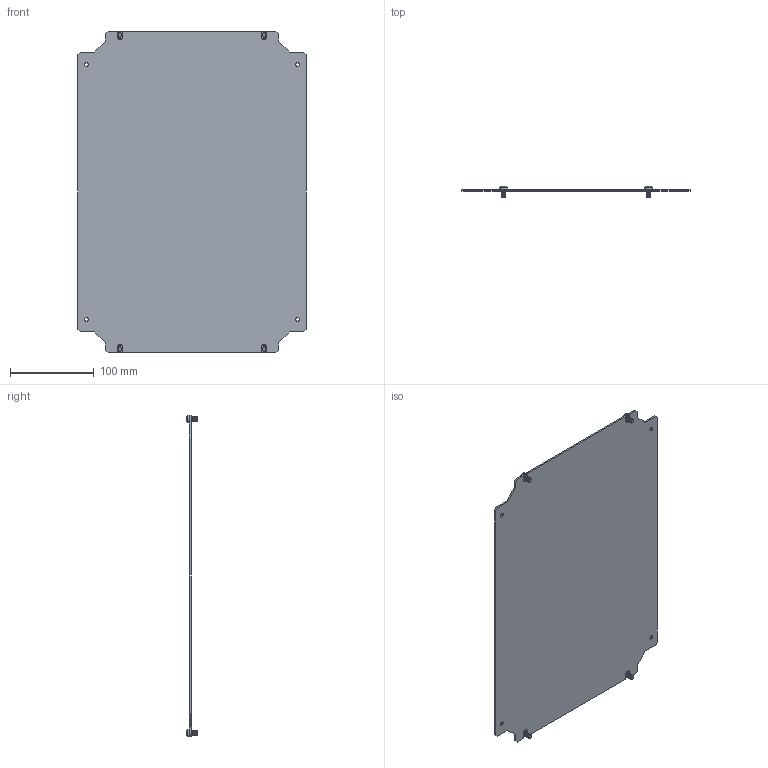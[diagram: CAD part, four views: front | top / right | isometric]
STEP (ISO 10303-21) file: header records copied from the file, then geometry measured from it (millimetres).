
FILE_DESCRIPTION (( 'STEP AP214' ), '1' );
FILE_NAME ('943.234--DM Small 300 W x 400 H Mounting Plate.STEP', '2020-12-03T10:24:57', ( '' ), ( '' ), 'SwSTEP 2.0', 'SolidWorks 2019', '' );
FILE_SCHEMA (( 'AUTOMOTIVE_DESIGN' ));
Length unit declared in the file: millimetre
Products named in the file (8): M5x10; M5x10_ISO 7045 - M5 x 10 - Z --- 10C; 943.234--DM Small 300 W x 400 H Mounting Plate; DM Small Montaj Plakasi 2mm_PP 20.0108 - 300x400; DM Small Montaj Plakasi 2mm
Assembly tree (5 placements, depth 2):
  M5x10
  943.234--DM Small 300 W x 400 H Mounting Plate
    DM Small Montaj Plakasi 2mm_PP 20.0108 - 300x400
    M5x10_ISO 7045 - M5 x 10 - Z --- 10C  x4
  M5x10
  M5x10
  DM Small Montaj Plakasi 2mm
Bounding box: 273 x 13.63 x 385.12 mm (x, y, z)
Volume: 205071.9 mm3; surface area: 208233.7 mm2
Topology: 5 solids, 5 shells, 460 faces, 1214 edges, 760 vertices
Faces by surface type: cone 208, cylinder 118, plane 110, torus 16, sphere 8
Entity records: 5136 total; most frequent: DIRECTION 922, CARTESIAN_POINT 866, ORIENTED_EDGE 828, EDGE_CURVE 414, AXIS2_PLACEMENT_3D 353, VERTEX_POINT 265, LINE 216, VECTOR 216
